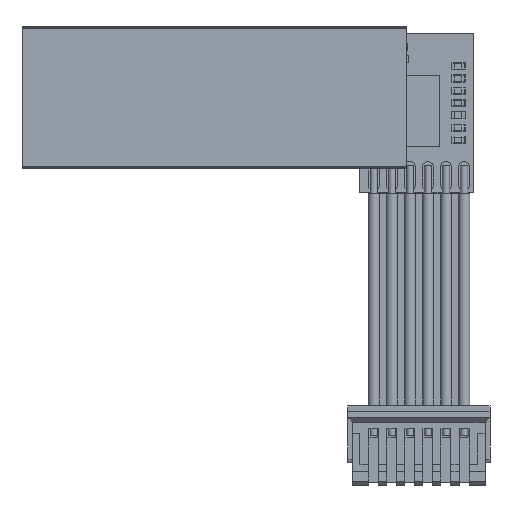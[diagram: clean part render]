
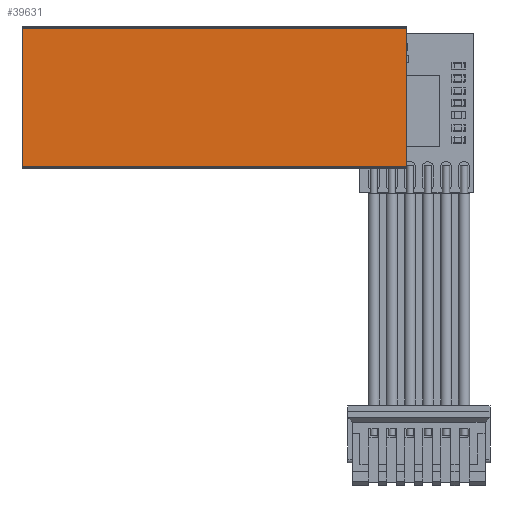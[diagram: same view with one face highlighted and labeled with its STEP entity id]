
A CAD part, top view. The second image highlights one B-rep face of the part: STEP entity #39631.
In plain terms, the highlighted planar face has unit normal (0, 0, 1) as drawn and (-1, 0, 0) by its records, which use the part's own axes.
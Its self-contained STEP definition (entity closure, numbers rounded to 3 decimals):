
#39490=DIRECTION('',(0.,0.,1.));
#39491=VECTOR('',#39490,9.7);
#39492=CARTESIAN_POINT('',(-40.448,-35.401,
-1.887));
#39493=LINE('',#39492,#39491);
#39511=DIRECTION('',(0.,-1.,0.));
#39512=VECTOR('',#39511,27.);
#39513=CARTESIAN_POINT('',(-40.448,-8.401,
-1.887));
#39514=LINE('',#39513,#39512);
#39518=DIRECTION('',(0.,0.,1.));
#39519=VECTOR('',#39518,9.7);
#39520=CARTESIAN_POINT('',(-40.448,-8.401,
-1.887));
#39521=LINE('',#39520,#39519);
#39525=DIRECTION('',(0.,-1.,0.));
#39526=VECTOR('',#39525,27.);
#39527=CARTESIAN_POINT('',(-40.448,-8.401,
7.813));
#39528=LINE('',#39527,#39526);
#39540=CARTESIAN_POINT('',(-40.448,-8.401,
7.813));
#39541=VERTEX_POINT('',#39540);
#39542=CARTESIAN_POINT('',(-40.448,-8.401,
-1.887));
#39543=VERTEX_POINT('',#39542);
#39544=CARTESIAN_POINT('',(-40.448,-35.401,
7.813));
#39545=VERTEX_POINT('',#39544);
#39546=CARTESIAN_POINT('',(-40.448,-35.401,
-1.887));
#39547=VERTEX_POINT('',#39546);
#39620=CARTESIAN_POINT('',(-40.448,-8.001,
-2.037));
#39621=DIRECTION('',(-1.,0.,0.));
#39622=DIRECTION('',(0.,0.,1.));
#39623=AXIS2_PLACEMENT_3D('',#39620,#39621,#39622);
#39624=PLANE('',#39623);
#39625=ORIENTED_EDGE('',*,*,#39572,.T.);
#39626=ORIENTED_EDGE('',*,*,#39588,.T.);
#39627=ORIENTED_EDGE('',*,*,#39601,.F.);
#39628=ORIENTED_EDGE('',*,*,#39613,.F.);
#39629=EDGE_LOOP('',(#39625,#39626,#39627,#39628));
#39630=FACE_OUTER_BOUND('',#39629,.F.);
#39631=ADVANCED_FACE('',(#39630),#39624,.T.);
#39572=EDGE_CURVE('',#39543,#39541,#39521,.T.);
#39588=EDGE_CURVE('',#39541,#39545,#39528,.T.);
#39601=EDGE_CURVE('',#39547,#39545,#39493,.T.);
#39613=EDGE_CURVE('',#39543,#39547,#39514,.T.);
